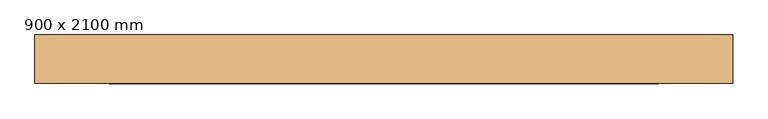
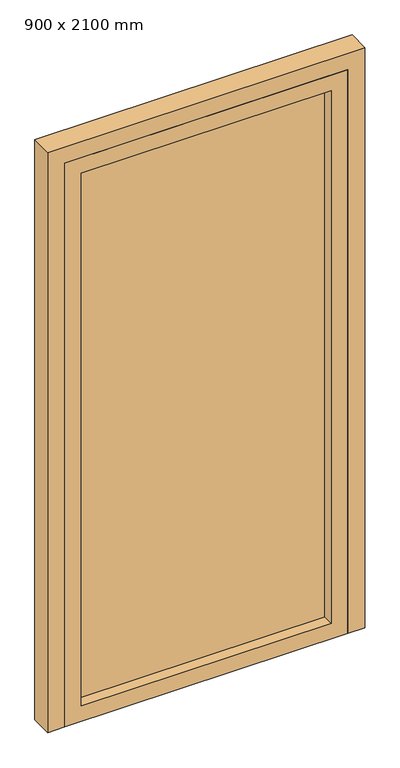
"""IFC4 building model written with IfcOpenShell, lengths in millimetres: door geometry, R_Dveře 1-kř rámové : 900 x 2100 mm."""

from ifc_helpers import new_model, si_unit, frame, origin, place, context, project, spatial, polyline, outline, extrude, source, transform, mapped, element, save


def door_900_x_2100_mm_97e4d3d2(model_context):
    return source(origin(), model_context, "Body", "SweptSolid", [
        extrude(outline(polyline([(452.5, 10.0), (-452.5, 10.0), (-452.5, 40.0), (452.5, 40.0), (452.5, 10.0)])), frame((0.0, 0.0, 60.0), z_axis=(0.0, 0.0, 1.0), x_axis=(1.0, 0.0, 0.0)), (0.0, 0.0, 1.0), 2042.5),
        extrude(outline(polyline([(2162.5, 512.5), (2162.5, -512.5), (0.0, -512.5), (0.0, 512.5), (2162.5, 512.5)]), holes=[polyline([(2102.5, 452.5), (60.0, 452.5), (60.0, -452.5), (2102.5, -452.5), (2102.5, 452.5)])]), frame((0.0, -30.0, 0.0), z_axis=(0.0, 1.0, 0.0), x_axis=(0.0, 0.0, 1.0)), (0.0, 0.0, 1.0), 80.0),
        extrude(outline(polyline([(0.0, 512.5), (0.0, 575.0), (2225.0, 575.0), (2225.0, -575.0), (0.0, -575.0), (0.0, -512.5), (2162.5, -512.5), (2162.5, 512.5), (0.0, 512.5)])), frame((0.0, -30.0, 0.0), z_axis=(0.0, 1.0, 0.0), x_axis=(0.0, 0.0, 1.0)), (0.0, 0.0, 1.0), 80.0),
    ])


if __name__ == "__main__":
    model = new_model("IFC4")
    model_context = context("Model", 3, world=origin())
    ifc_project = project(units=[si_unit("LENGTHUNIT", "METRE", prefix="MILLI")], contexts=[model_context])
    site = spatial("IfcSite", under=ifc_project)
    building = spatial("IfcBuilding", under=site)
    placement = place(None, origin())
    door_900_x_2100_mm_shape = door_900_x_2100_mm_97e4d3d2(model_context)
    element("IfcDoor", 1, ObjectType="R_Dveře 1-kř rámové : 900 x 2100 mm", at=placement, inside=building, context=model_context, shape_type="MappedRepresentation", body=[
        mapped(door_900_x_2100_mm_shape, transform((0.0, 0.0, 0.0), x_axis=(1.0, 0.0, 0.0), y_axis=(0.0, 1.0, 0.0), z_axis=(0.0, 0.0, 1.0))),
    ])
    save(model, "model.ifc")
